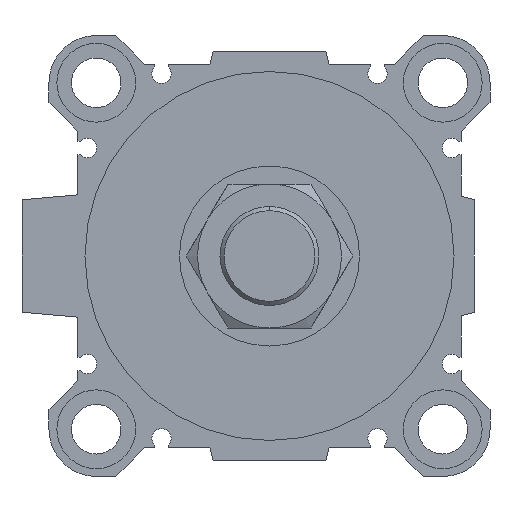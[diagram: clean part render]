
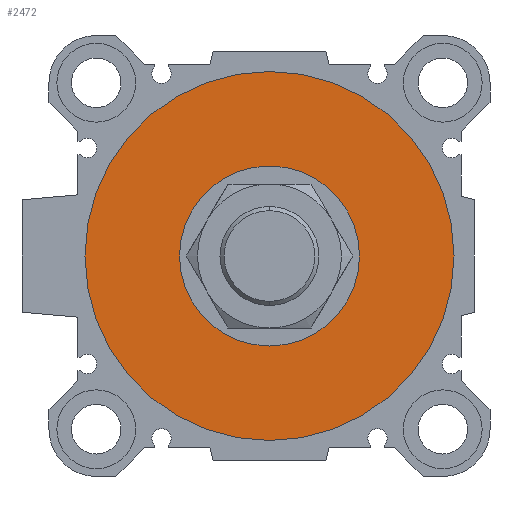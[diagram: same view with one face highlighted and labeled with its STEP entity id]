
A CAD part, left-side view. The second image highlights one B-rep face of the part: STEP entity #2472.
In plain terms, the highlighted planar face has unit normal (-1, 0, 0).
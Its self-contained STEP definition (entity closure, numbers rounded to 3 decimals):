
#280 = VERTEX_POINT ( 'NONE', #1088 ) ;
#387 = DIRECTION ( 'NONE',  ( 0., 0., -1. ) ) ;
#787 = DIRECTION ( 'NONE',  ( 1., 0., 0. ) ) ;
#1080 = CIRCLE ( 'NONE', #2052, 41. ) ;
#1088 = CARTESIAN_POINT ( 'NONE',  ( 5., 0., 41. ) ) ;
#1148 = DIRECTION ( 'NONE',  ( 1., 0., 0. ) ) ;
#1299 = DIRECTION ( 'NONE',  ( 1., 0., 0. ) ) ;
#1388 = VERTEX_POINT ( 'NONE', #2323 ) ;
#1517 = EDGE_CURVE ( 'NONE', #280, #3676, #1080, .T. ) ;
#2045 = CARTESIAN_POINT ( 'NONE',  ( 5., 0., -41. ) ) ;
#2052 = AXIS2_PLACEMENT_3D ( 'NONE', #6047, #787, #3131 ) ;
#2298 = FACE_OUTER_BOUND ( 'NONE', #4673, .T. ) ;
#2299 = DIRECTION ( 'NONE',  ( 0., 0., -1. ) ) ;
#2323 = CARTESIAN_POINT ( 'NONE',  ( 5., 0., 20. ) ) ;
#2337 = ORIENTED_EDGE ( 'NONE', *, *, #4098, .F. ) ;
#2405 = EDGE_LOOP ( 'NONE', ( #3214, #3945 ) ) ;
#2472 = ADVANCED_FACE ( 'NONE', ( #2298, #4651 ), #4075, .F. ) ;
#3131 = DIRECTION ( 'NONE',  ( 0., 0., -1. ) ) ;
#3189 = DIRECTION ( 'NONE',  ( 0., 0., -1. ) ) ;
#3200 = CIRCLE ( 'NONE', #3314, 20. ) ;
#3204 = AXIS2_PLACEMENT_3D ( 'NONE', #6399, #1148, #6436 ) ;
#3214 = ORIENTED_EDGE ( 'NONE', *, *, #6981, .T. ) ;
#3314 = AXIS2_PLACEMENT_3D ( 'NONE', #5743, #5701, #387 ) ;
#3474 = AXIS2_PLACEMENT_3D ( 'NONE', #4928, #4852, #3189 ) ;
#3676 = VERTEX_POINT ( 'NONE', #2045 ) ;
#3920 = CIRCLE ( 'NONE', #6254, 20. ) ;
#3945 = ORIENTED_EDGE ( 'NONE', *, *, #6734, .T. ) ;
#4075 = PLANE ( 'NONE',  #3204 ) ;
#4098 = EDGE_CURVE ( 'NONE', #3676, #280, #6771, .T. ) ;
#4479 = VERTEX_POINT ( 'NONE', #5506 ) ;
#4651 = FACE_BOUND ( 'NONE', #2405, .T. ) ;
#4673 = EDGE_LOOP ( 'NONE', ( #6486, #2337 ) ) ;
#4852 = DIRECTION ( 'NONE',  ( 1., 0., 0. ) ) ;
#4928 = CARTESIAN_POINT ( 'NONE',  ( 5., 0., 0. ) ) ;
#5506 = CARTESIAN_POINT ( 'NONE',  ( 5., 0., -20. ) ) ;
#5701 = DIRECTION ( 'NONE',  ( 1., 0., 0. ) ) ;
#5743 = CARTESIAN_POINT ( 'NONE',  ( 5., 0., 0. ) ) ;
#5826 = CARTESIAN_POINT ( 'NONE',  ( 5., 0., 0. ) ) ;
#6047 = CARTESIAN_POINT ( 'NONE',  ( 5., 0., 0. ) ) ;
#6254 = AXIS2_PLACEMENT_3D ( 'NONE', #5826, #1299, #2299 ) ;
#6399 = CARTESIAN_POINT ( 'NONE',  ( 5., 0., 0. ) ) ;
#6436 = DIRECTION ( 'NONE',  ( 0., 1., 0. ) ) ;
#6486 = ORIENTED_EDGE ( 'NONE', *, *, #1517, .F. ) ;
#6734 = EDGE_CURVE ( 'NONE', #4479, #1388, #3920, .T. ) ;
#6771 = CIRCLE ( 'NONE', #3474, 41. ) ;
#6981 = EDGE_CURVE ( 'NONE', #1388, #4479, #3200, .T. ) ;
